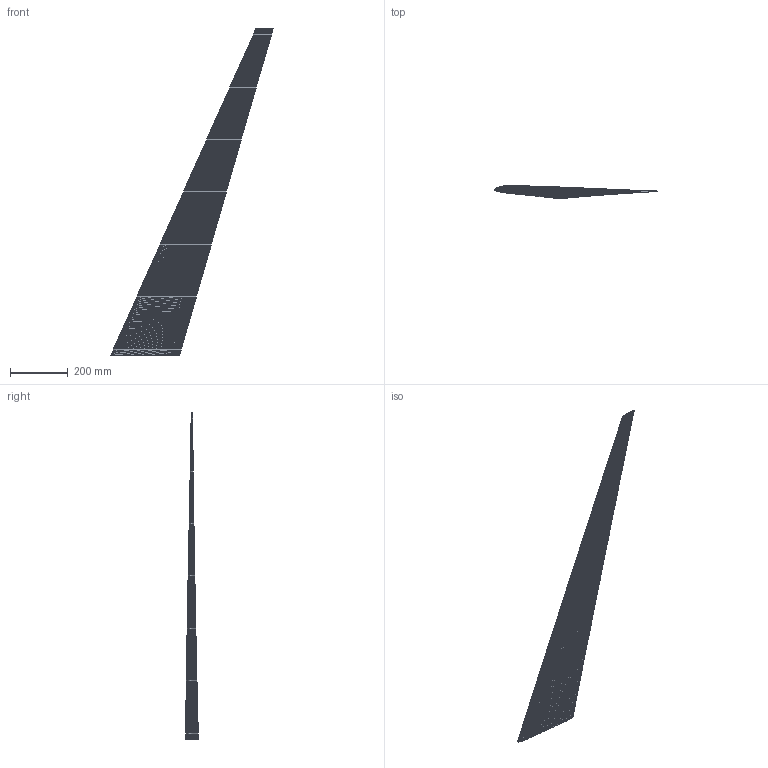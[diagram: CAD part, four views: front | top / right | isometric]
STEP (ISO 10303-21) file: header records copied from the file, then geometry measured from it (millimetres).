
FILE_DESCRIPTION(('FreeCAD Model'),'2;1');
FILE_NAME('J:/PrandtlVlerk/P2/prandtl2/CAD/PrandtlWingP2PortSide.step', '2019-01-23T09:33:53',(''),(''),'Open CASCADE STEP processor 7.2', 'FreeCAD','Unknown');
FILE_SCHEMA(('AUTOMOTIVE_DESIGN { 1 0 10303 214 1 1 1 1 }'));
Products named in the file (1): Sweep
Bounding box: 560.26 x 44.54 x 1125 mm (x, y, z)
Volume: 2162274.8 mm3; surface area: 347738.4 mm2
Topology: 1 solids, 1 shells, 3182 faces, 6519 edges, 3339 vertices
Faces by surface type: bspline 3180, plane 2
Entity records: 149505 total; most frequent: CARTESIAN_POINT 48657, ORIENTED_EDGE 13038, B_SPLINE_CURVE_WITH_KNOTS 13038, PCURVE 13038, DEFINITIONAL_REPRESENTATION 13038, DIRECTION 6525, EDGE_CURVE 6519, SURFACE_CURVE 6519
